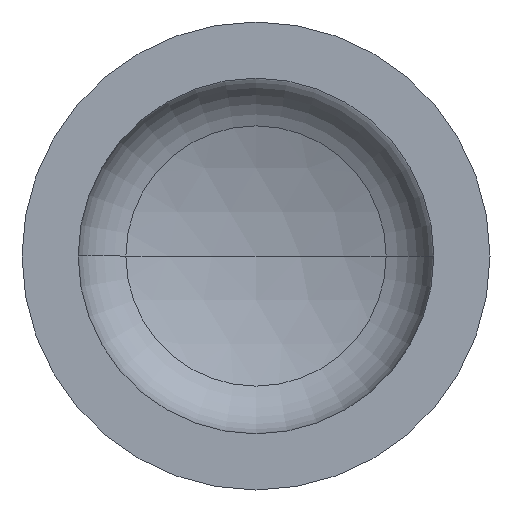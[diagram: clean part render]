
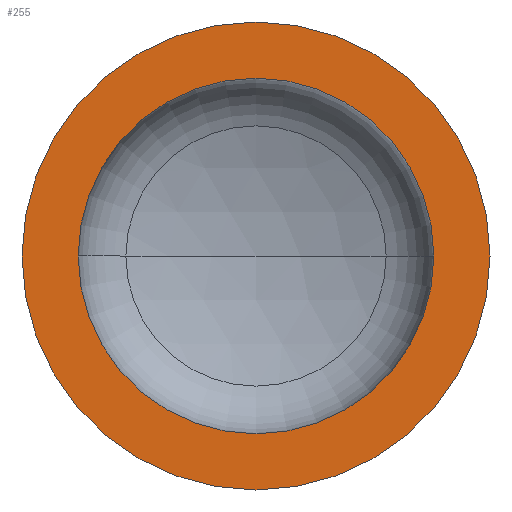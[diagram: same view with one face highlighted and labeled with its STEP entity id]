
A CAD part, front view. The second image highlights one B-rep face of the part: STEP entity #255.
In plain terms, the highlighted planar face has unit normal (0, -1, 0).
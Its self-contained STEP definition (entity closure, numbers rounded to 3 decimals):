
#14 = AXIS2_PLACEMENT_3D ( 'NONE', #94, #73, #409 ) ;
#17 = VERTEX_POINT ( 'NONE', #269 ) ;
#19 = AXIS2_PLACEMENT_3D ( 'NONE', #182, #200, #376 ) ;
#35 = ORIENTED_EDGE ( 'NONE', *, *, #75, .T. ) ;
#40 = VERTEX_POINT ( 'NONE', #372 ) ;
#53 = AXIS2_PLACEMENT_3D ( 'NONE', #366, #352, #349 ) ;
#55 = EDGE_LOOP ( 'NONE', ( #149, #111 ) ) ;
#58 = AXIS2_PLACEMENT_3D ( 'NONE', #224, #225, #347 ) ;
#73 = DIRECTION ( 'NONE',  ( 0., 1., 0. ) ) ;
#75 = EDGE_CURVE ( 'NONE', #95, #40, #404, .T. ) ;
#76 = EDGE_CURVE ( 'NONE', #141, #17, #346, .T. ) ;
#94 = CARTESIAN_POINT ( 'NONE',  ( -400., 0., 0. ) ) ;
#95 = VERTEX_POINT ( 'NONE', #245 ) ;
#111 = ORIENTED_EDGE ( 'NONE', *, *, #340, .F. ) ;
#129 = DIRECTION ( 'NONE',  ( 0., -1., 0. ) ) ;
#138 = ORIENTED_EDGE ( 'NONE', *, *, #389, .T. ) ;
#141 = VERTEX_POINT ( 'NONE', #155 ) ;
#149 = ORIENTED_EDGE ( 'NONE', *, *, #76, .F. ) ;
#153 = CIRCLE ( 'NONE', #262, 400. ) ;
#155 = CARTESIAN_POINT ( 'NONE',  ( 304., 0., 0. ) ) ;
#176 = CIRCLE ( 'NONE', #19, 304. ) ;
#182 = CARTESIAN_POINT ( 'NONE',  ( 0., 0., 0. ) ) ;
#186 = FACE_OUTER_BOUND ( 'NONE', #368, .T. ) ;
#195 = PLANE ( 'NONE',  #14 ) ;
#200 = DIRECTION ( 'NONE',  ( 0., -1., 0. ) ) ;
#224 = CARTESIAN_POINT ( 'NONE',  ( 0., 0., 0. ) ) ;
#225 = DIRECTION ( 'NONE',  ( 0., -1., 0. ) ) ;
#245 = CARTESIAN_POINT ( 'NONE',  ( -400., 0., 0. ) ) ;
#255 = ADVANCED_FACE ( 'NONE', ( #381, #186 ), #195, .F. ) ;
#258 = DIRECTION ( 'NONE',  ( 1., 0., 0. ) ) ;
#262 = AXIS2_PLACEMENT_3D ( 'NONE', #398, #129, #258 ) ;
#269 = CARTESIAN_POINT ( 'NONE',  ( -304., 0., 0. ) ) ;
#340 = EDGE_CURVE ( 'NONE', #17, #141, #176, .T. ) ;
#346 = CIRCLE ( 'NONE', #53, 304. ) ;
#347 = DIRECTION ( 'NONE',  ( 1., 0., 0. ) ) ;
#349 = DIRECTION ( 'NONE',  ( 1., 0., 0. ) ) ;
#352 = DIRECTION ( 'NONE',  ( 0., -1., 0. ) ) ;
#366 = CARTESIAN_POINT ( 'NONE',  ( 0., 0., 0. ) ) ;
#368 = EDGE_LOOP ( 'NONE', ( #138, #35 ) ) ;
#372 = CARTESIAN_POINT ( 'NONE',  ( 400., 0., 0. ) ) ;
#376 = DIRECTION ( 'NONE',  ( 1., 0., 0. ) ) ;
#381 = FACE_BOUND ( 'NONE', #55, .T. ) ;
#389 = EDGE_CURVE ( 'NONE', #40, #95, #153, .T. ) ;
#398 = CARTESIAN_POINT ( 'NONE',  ( 0., 0., 0. ) ) ;
#404 = CIRCLE ( 'NONE', #58, 400. ) ;
#409 = DIRECTION ( 'NONE',  ( -1., 0., 0. ) ) ;
